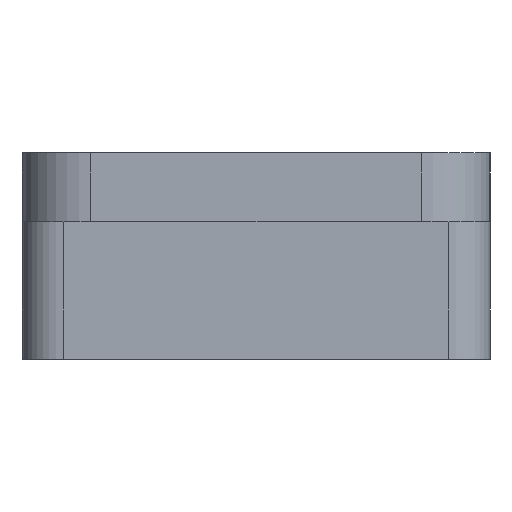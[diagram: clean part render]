
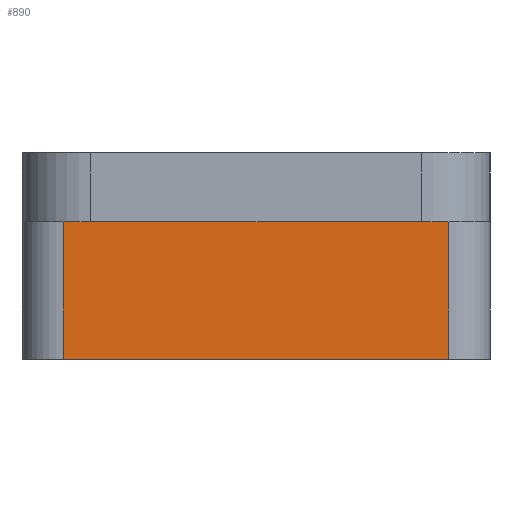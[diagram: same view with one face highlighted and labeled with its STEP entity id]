
A CAD part, left-side view. The second image highlights one B-rep face of the part: STEP entity #890.
In plain terms, the highlighted planar face has unit normal (-1, 0, 0).
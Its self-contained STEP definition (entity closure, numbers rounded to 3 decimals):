
#877=AXIS2_PLACEMENT_3D('Plane Axis2P3D',#874,#875,#876) ;
#154=CARTESIAN_POINT('Vertex',(30.,-64.,0.)) ;
#157=CARTESIAN_POINT('Line Origine',(30.,-50.,0.)) ;
#161=CARTESIAN_POINT('Vertex',(30.,-36.,0.)) ;
#651=CARTESIAN_POINT('Vertex',(30.,-64.,10.)) ;
#668=CARTESIAN_POINT('Vertex',(30.,-36.,10.)) ;
#671=CARTESIAN_POINT('Line Origine',(30.,-50.,10.)) ;
#862=CARTESIAN_POINT('Line Origine',(30.,-64.,7.5)) ;
#874=CARTESIAN_POINT('Axis2P3D Location',(30.,-6.15,0.)) ;
#879=CARTESIAN_POINT('Line Origine',(30.,-36.,5.)) ;
#158=DIRECTION('Vector Direction',(0.,-1.,0.)) ;
#672=DIRECTION('Vector Direction',(0.,-1.,0.)) ;
#863=DIRECTION('Vector Direction',(0.,0.,1.)) ;
#875=DIRECTION('Axis2P3D Direction',(-1.,0.,0.)) ;
#876=DIRECTION('Axis2P3D XDirection',(0.,-1.,0.)) ;
#880=DIRECTION('Vector Direction',(0.,0.,1.)) ;
#159=VECTOR('Line Direction',#158,1.) ;
#673=VECTOR('Line Direction',#672,1.) ;
#864=VECTOR('Line Direction',#863,1.) ;
#881=VECTOR('Line Direction',#880,1.) ;
#885=ORIENTED_EDGE('',*,*,#675,.F.) ;
#886=ORIENTED_EDGE('',*,*,#883,.F.) ;
#887=ORIENTED_EDGE('',*,*,#163,.T.) ;
#888=ORIENTED_EDGE('',*,*,#866,.T.) ;
#890=ADVANCED_FACE('\X2\96F64EF651E04F554F53\X0\',(#889),#878,.T.) ;
#163=EDGE_CURVE('',#162,#155,#160,.T.) ;
#675=EDGE_CURVE('',#669,#652,#674,.T.) ;
#866=EDGE_CURVE('',#155,#652,#865,.T.) ;
#883=EDGE_CURVE('',#162,#669,#882,.T.) ;
#884=EDGE_LOOP('',(#885,#886,#887,#888)) ;
#889=FACE_OUTER_BOUND('',#884,.T.) ;
#160=LINE('Line',#157,#159) ;
#674=LINE('Line',#671,#673) ;
#865=LINE('Line',#862,#864) ;
#882=LINE('Line',#879,#881) ;
#878=PLANE('',#877) ;
#155=VERTEX_POINT('',#154) ;
#162=VERTEX_POINT('',#161) ;
#652=VERTEX_POINT('',#651) ;
#669=VERTEX_POINT('',#668) ;
